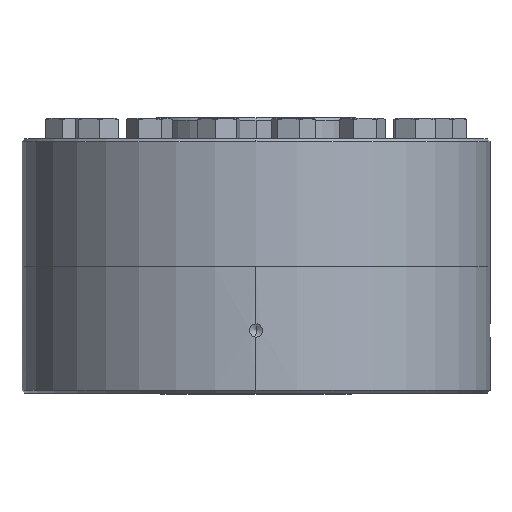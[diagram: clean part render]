
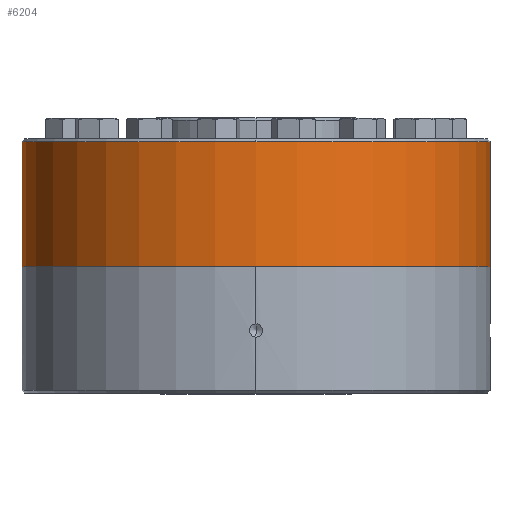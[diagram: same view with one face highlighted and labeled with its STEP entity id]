
A CAD part, left-side view. The second image highlights one B-rep face of the part: STEP entity #6204.
In plain terms, the highlighted cylindrical face has radius 139.649 mm (diameter 279.298 mm), a partial arc.
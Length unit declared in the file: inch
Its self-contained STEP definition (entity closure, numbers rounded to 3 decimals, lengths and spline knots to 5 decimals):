
#1678 = CARTESIAN_POINT ( 'NONE',  ( 0., 5.498, -0.06 ) ) ;
#1743 = LINE ( 'NONE', #1749, #1750 ) ;
#1749 = CARTESIAN_POINT ( 'NONE',  ( 0., 5.498, -0.06 ) ) ;
#1750 = VECTOR ( 'NONE', #1751, 39.37008 ) ;
#1751 = DIRECTION ( 'NONE',  ( 0., 0., -1. ) ) ;
#3176 = CARTESIAN_POINT ( 'NONE',  ( 0., 5.498, -3. ) ) ;
#3534 = CIRCLE ( 'NONE', #3539, 5.498 ) ;
#3539 = AXIS2_PLACEMENT_3D ( 'NONE', #3540, #3541, #3542 ) ;
#3540 = CARTESIAN_POINT ( 'NONE',  ( 0., 0., -3. ) ) ;
#3541 = DIRECTION ( 'NONE',  ( 0., 0., 1. ) ) ;
#3542 = DIRECTION ( 'NONE',  ( 0., 1., 0. ) ) ;
#4125 = VERTEX_POINT ( 'NONE', #10470 ) ;
#4317 = CIRCLE ( 'NONE', #4318, 5.498 ) ;
#4318 = AXIS2_PLACEMENT_3D ( 'NONE', #4319, #4320, #4321 ) ;
#4319 = CARTESIAN_POINT ( 'NONE',  ( 0., 0., -0.06 ) ) ;
#4320 = DIRECTION ( 'NONE',  ( 0., 0., -1. ) ) ;
#4321 = DIRECTION ( 'NONE',  ( 0., 1., 0. ) ) ;
#4354 = EDGE_CURVE ( 'NONE', #5349, #4125, #10545, .T. ) ;
#4725 = VERTEX_POINT ( 'NONE', #10802 ) ;
#4969 = EDGE_CURVE ( 'NONE', #4725, #7256, #10927, .T. ) ;
#5349 = VERTEX_POINT ( 'NONE', #11138 ) ;
#5536 = ORIENTED_EDGE ( 'NONE', *, *, #4354, .F. ) ;
#5936 = EDGE_LOOP ( 'NONE', ( #5536, #7624, #7505, #7374, #8084 ) ) ;
#6204 = ADVANCED_FACE ( 'NONE', ( #11824 ), #11825, .T. ) ;
#7256 = VERTEX_POINT ( 'NONE', #1678 ) ;
#7298 = EDGE_CURVE ( 'NONE', #7256, #7839, #1743, .T. ) ;
#7374 = ORIENTED_EDGE ( 'NONE', *, *, #7298, .T. ) ;
#7505 = ORIENTED_EDGE ( 'NONE', *, *, #4969, .T. ) ;
#7624 = ORIENTED_EDGE ( 'NONE', *, *, #8464, .T. ) ;
#7839 = VERTEX_POINT ( 'NONE', #3176 ) ;
#7996 = EDGE_CURVE ( 'NONE', #7839, #4125, #3534, .T. ) ;
#8084 = ORIENTED_EDGE ( 'NONE', *, *, #7996, .T. ) ;
#8464 = EDGE_CURVE ( 'NONE', #5349, #4725, #4317, .T. ) ;
#10470 = CARTESIAN_POINT ( 'NONE',  ( 0., -5.498, -3. ) ) ;
#10545 = LINE ( 'NONE', #10546, #10547 ) ;
#10546 = CARTESIAN_POINT ( 'NONE',  ( 0., -5.498, -0.06 ) ) ;
#10547 = VECTOR ( 'NONE', #10548, 39.37008 ) ;
#10548 = DIRECTION ( 'NONE',  ( 0., 0., -1. ) ) ;
#10802 = CARTESIAN_POINT ( 'NONE',  ( -5.498, 0., -0.06 ) ) ;
#10927 = CIRCLE ( 'NONE', #10928, 5.498 ) ;
#10928 = AXIS2_PLACEMENT_3D ( 'NONE', #10929, #10930, #10931 ) ;
#10929 = CARTESIAN_POINT ( 'NONE',  ( 0., 0., -0.06 ) ) ;
#10930 = DIRECTION ( 'NONE',  ( 0., 0., -1. ) ) ;
#10931 = DIRECTION ( 'NONE',  ( 0., 1., 0. ) ) ;
#11138 = CARTESIAN_POINT ( 'NONE',  ( 0., -5.498, -0.06 ) ) ;
#11824 = FACE_OUTER_BOUND ( 'NONE', #5936, .T. ) ;
#11825 = CYLINDRICAL_SURFACE ( 'NONE', #11826, 5.498 ) ;
#11826 = AXIS2_PLACEMENT_3D ( 'NONE', #11827, #11828, #11829 ) ;
#11827 = CARTESIAN_POINT ( 'NONE',  ( 0., 0., -0.06 ) ) ;
#11828 = DIRECTION ( 'NONE',  ( 0., 0., -1. ) ) ;
#11829 = DIRECTION ( 'NONE',  ( 0., 1., 0. ) ) ;
